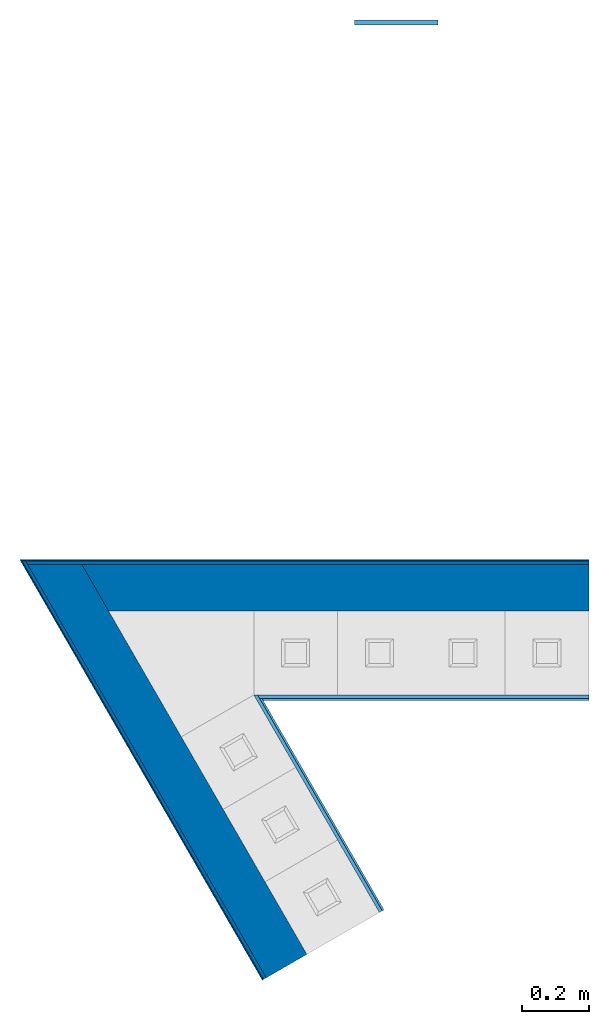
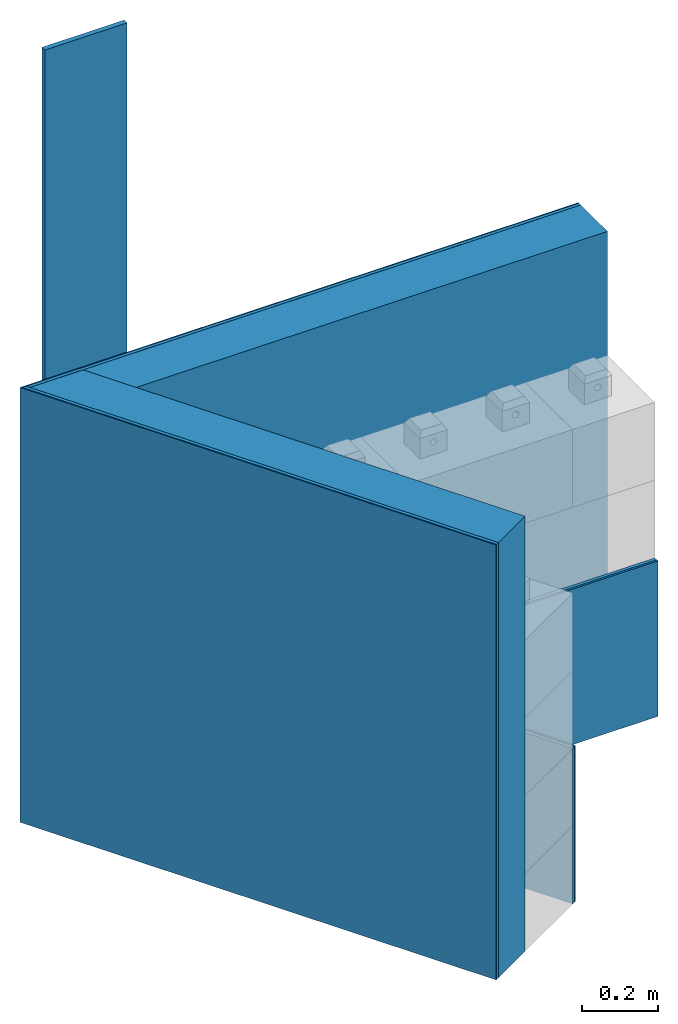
# One storey, part 1 of 2: 10 walls, 1 beam.
"""IFC4 building model written with IfcOpenShell, lengths in centimetres."""

from ifc_helpers import new_model, entity, si_unit, converted_unit, direction, frame, origin, place, context, subcontext, project, spatial, indexed_curve, outline, extrude, source, transform, mapped, material, type_object, type_shapes, element, save


model = new_model("IFC4")

# Units and contexts
model_context = context("Model", 3, precision=0.001, world=origin(), true_north=direction((0.0, 1.0)))
body_context = subcontext(model_context, "Body", "Model", "MODEL_VIEW")
ifc_project = project(units=[si_unit("LENGTHUNIT", "METRE", prefix="CENTI"), si_unit("AREAUNIT", "SQUARE_METRE"), si_unit("VOLUMEUNIT", "CUBIC_METRE"), converted_unit("PLANEANGLEUNIT", "DEGREE", entity("IfcPlaneAngleMeasure", 0.017453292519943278), si_unit("PLANEANGLEUNIT", "RADIAN"), dimensions=[0, 0, 0, 0, 0, 0, 0])], contexts=[model_context])

# Site, building, storey
site_placement = place(None, origin())
site = spatial("IfcSite", under=ifc_project, at=site_placement, Name="Default", CompositionType="ELEMENT")
building_placement = place(site_placement, origin())
building = spatial("IfcBuilding", under=site, at=building_placement, CompositionType="ELEMENT")
storey_placement = place(building_placement, frame((0.0, 0.0, -12.0)))
storey = spatial("IfcBuildingStorey", under=building, at=storey_placement, Name="L00__ABOVE Slab", CompositionType="ELEMENT", Elevation=-12.000000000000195)

# Beam
ifc_material_1 = material(Name="_STRUCTURE__Wood")
beam_type = type_object("IfcBeamType", Name="Structural Framing : sfr__WOOD__Rectangular__sf : 15 x 1cm", PredefinedType="BEAM", material=ifc_material_1)
shared_shape = source(origin(), body_context, "Body", "SweptSolid", [
    extrude(outline(indexed_curve([(-55.0, -12.500000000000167), (55.0, -12.500000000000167), (55.0, 12.500000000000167), (-55.0, 12.500000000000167), (-55.0, -12.500000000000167)], self_intersect=False)), frame((0.0, 0.0, -0.7500000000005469), z_axis=(0.0, 0.0, 1.0), x_axis=(-1.0, 0.0, 0.0)), (0.0, 0.0, 1.0), 1.4999999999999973),
])
type_shapes(beam_type, [shared_shape])
beam_placement = place(storey_placement, frame((2025.6494566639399, 1039.4552064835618, 71.5), z_axis=(0.0, 1.0, 0.0), x_axis=(0.0, 0.0, 1.0)))
element("IfcBeam", 1, at=beam_placement, inside=storey, type_object=beam_type, material=ifc_material_1, Name="Structural Framing : sfr__WOOD__Rectangular__sf : 15 x 1cm", PredefinedType="BEAM", context=body_context, shape_type="MappedRepresentation", body=[
    mapped(shared_shape, transform((0.0, 0.0, 0.0), scale=1.0)),
])

# Walls
ifc_material_2 = material(Name="_FCD LAYERS__Insulation__Wood-fiber__Steico", Category="Unassigned")
wall_1_placement = place(storey_placement, frame((0.0, 0.0, 10.0)))
element("IfcWall", 2, at=wall_1_placement, inside=storey, material=ifc_material_2, Name="Parts : Part", PredefinedType="NOTDEFINED", context=body_context, shape_type="SweptSolid", body=[
    extrude(outline(indexed_curve([(26.544228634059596, -59.97595264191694), (42.710036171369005, -59.97595264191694), (-28.564954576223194, 63.475952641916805), (-40.689310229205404, 56.475952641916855), (26.544228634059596, -59.97595264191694)], self_intersect=False)), frame((1958.3095113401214, 817.7292538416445, 0.0), z_axis=(0.0, 0.0, 1.0), x_axis=(-1.0, 0.0, 0.0)), (0.0, 0.0, 1.0), 139.8138249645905),
])
ifc_material_3 = material(Name="_STRUCTURE__Wood Solid")
wall_2_placement = place(storey_placement, frame((0.0, 0.0, 10.0)))
element("IfcWall", 3, at=wall_2_placement, inside=storey, material=ifc_material_3, Name="Parts : Part", PredefinedType="NOTDEFINED", context=body_context, shape_type="SweptSolid", body=[
    extrude(outline(indexed_curve([(35.42098902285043, -62.350952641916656), (36.57568956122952, -62.350952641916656), (-35.565326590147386, 62.600952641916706), (-36.43135199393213, 62.10095264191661), (35.42098902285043, -62.350952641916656)], self_intersect=False)), frame((1950.4431139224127, 816.3542538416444, 0.0), z_axis=(0.0, 0.0, 1.0), x_axis=(-1.0, 0.0, 0.0)), (0.0, 0.0, 1.0), 139.8138249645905),
])
ifc_material_4 = material(Name="_FCD LAYERS__Insulation__EPS 120__Austrotherm EPS A120")
wall_3_placement = place(storey_placement, frame((0.0, 0.0, 10.0)))
element("IfcWall", 4, at=wall_3_placement, inside=storey, material=ifc_material_4, Name="Parts : Part", PredefinedType="NOTDEFINED", context=body_context, shape_type="SweptSolid", body=[
    extrude(outline(indexed_curve([(18.100480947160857, -32.350952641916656), (19.25518148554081, -32.35095264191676), (-18.244818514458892, 32.6009526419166), (-19.110843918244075, 32.100952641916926), (18.100480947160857, -32.350952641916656)], self_intersect=False)), frame((2002.4046381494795, 806.3542538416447, 0.0), z_axis=(0.0, 0.0, 1.0), x_axis=(-1.0, 0.0, 0.0)), (0.0, 0.0, 1.0), 50.000000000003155),
])
ifc_material_5 = material(Name="_WLL & CLG FINISHES__Lime - CEM Plaster", Category="Unassigned")
wall_4_placement = place(storey_placement, frame((0.0, 0.0, 10.0)))
element("IfcWall", 5, at=wall_4_placement, inside=storey, material=ifc_material_5, Name="Parts : Part", PredefinedType="NOTDEFINED", context=body_context, shape_type="SweptSolid", body=[
    extrude(outline(indexed_curve([(17.927275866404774, -31.650952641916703), (18.62009618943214, -31.650952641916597), (-18.013878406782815, 31.800952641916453), (-18.533493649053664, 31.500952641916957), (17.927275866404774, -31.650952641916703)], self_intersect=False)), frame((2003.5016036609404, 806.0542538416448, 0.0), z_axis=(0.0, 0.0, 1.0), x_axis=(-1.0, 0.0, 0.0)), (0.0, 0.0, 1.0), 50.000000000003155),
])
wall_5_placement = place(storey_placement, frame((0.0, 0.0, 10.0)))
element("IfcWall", 6, at=wall_5_placement, inside=storey, material=ifc_material_4, Name="Parts : Part", PredefinedType="NOTDEFINED", context=body_context, shape_type="SweptSolid", body=[
    extrude(outline(indexed_curve([(-48.98963702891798, -0.4999999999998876), (49.27831216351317, -0.4999999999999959), (49.278312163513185, 0.49999999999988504), (-49.56698729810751, 0.4999999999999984), (-48.98963702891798, -0.4999999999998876)], self_intersect=False)), frame((2033.8711445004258, 838.2052064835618, 0.0)), (0.0, 0.0, 1.0), 50.000000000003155),
])
wall_6_placement = place(storey_placement, frame((0.0, 0.0, 10.0)))
element("IfcWall", 7, at=wall_6_placement, inside=storey, material=ifc_material_5, Name="Parts : Part", PredefinedType="NOTDEFINED", context=body_context, shape_type="SweptSolid", body=[
    extrude(outline(indexed_curve([(-48.52775681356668, -0.2999999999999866), (48.7009618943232, -0.3000000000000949), (48.7009618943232, 0.2999999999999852), (-48.87416697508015, 0.29999999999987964), (-48.52775681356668, -0.2999999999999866)], self_intersect=False)), frame((2034.4484947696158, 837.4052064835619, 0.0)), (0.0, 0.0, 1.0), 50.000000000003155),
])
wall_7_placement = place(storey_placement, frame((0.0, 0.0, 10.0)))
element("IfcWall", 8, at=wall_7_placement, inside=storey, material=ifc_material_2, Name="Parts : Part", PredefinedType="NOTDEFINED", context=body_context, shape_type="SweptSolid", body=[
    extrude(outline(indexed_curve([(-69.62990915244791, -6.999999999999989), (73.6713610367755, -6.999999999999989), (73.67136103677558, 6.999999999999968), (-77.71281292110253, 7.000000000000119), (-69.62990915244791, -6.999999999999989)], self_intersect=False)), frame((2009.4780956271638, 870.7052064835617, 0.0)), (0.0, 0.0, 1.0), 139.8138249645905),
])
wall_8_placement = place(storey_placement, frame((0.0, 0.0, 10.0)))
element("IfcWall", 9, at=wall_8_placement, inside=storey, material=ifc_material_3, Name="Parts : Part", PredefinedType="NOTDEFINED", context=body_context, shape_type="SweptSolid", body=[
    extrude(outline(indexed_curve([(-83.63065318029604, -0.49999999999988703), (83.91932831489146, -0.49999999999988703), (83.91932831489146, 0.5000000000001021), (-84.2080034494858, 0.5000000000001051), (-83.63065318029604, -0.49999999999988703)], self_intersect=False)), frame((1999.2301283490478, 878.2052064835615, 0.0)), (0.0, 0.0, 1.0), 139.8138249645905),
])
ifc_material_6 = material(Name="_FCD FINISH__Mineral Render__Combed, H L/O__Capatect Kreativeffekt \"Filigrano\"__White", Category="Concrete")
wall_9_placement = place(storey_placement, frame((0.0, 0.0, 10.0)))
element("IfcWall", 10, at=wall_9_placement, inside=storey, material=ifc_material_6, Name="Parts : Part", PredefinedType="NOTDEFINED", context=body_context, shape_type="SweptSolid", body=[
    extrude(outline(indexed_curve([(36.005556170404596, -62.66345264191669), (36.35196633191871, -62.663452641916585), (-36.04885744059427, 62.73845264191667), (-36.30866506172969, 62.58845264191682), (36.005556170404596, -62.66345264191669)], self_intersect=False)), frame((1949.6997754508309, 816.3417538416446, 0.0), z_axis=(0.0, 0.0, 1.0), x_axis=(-1.0, 0.0, 0.0)), (0.0, 0.0, 1.0), 139.8138249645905),
])
wall_10_placement = place(storey_placement, frame((0.0, 0.0, 10.0)))
element("IfcWall", 11, at=wall_10_placement, inside=storey, material=ifc_material_6, Name="Parts : Part", PredefinedType="NOTDEFINED", context=body_context, shape_type="SweptSolid", body=[
    extrude(outline(indexed_curve([(-84.59771488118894, -0.1500000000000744), (84.68431742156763, -0.1500000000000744), (84.68431742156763, 0.1499999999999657), (-84.77091996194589, 0.14999999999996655), (-84.59771488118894, -0.1500000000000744)], self_intersect=False)), frame((1998.4651392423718, 878.8552064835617, 0.0)), (0.0, 0.0, 1.0), 139.8138249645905),
])

save(model, "model.ifc")
